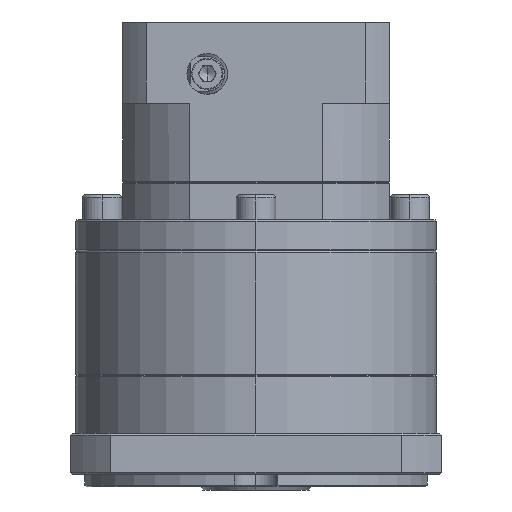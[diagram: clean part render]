
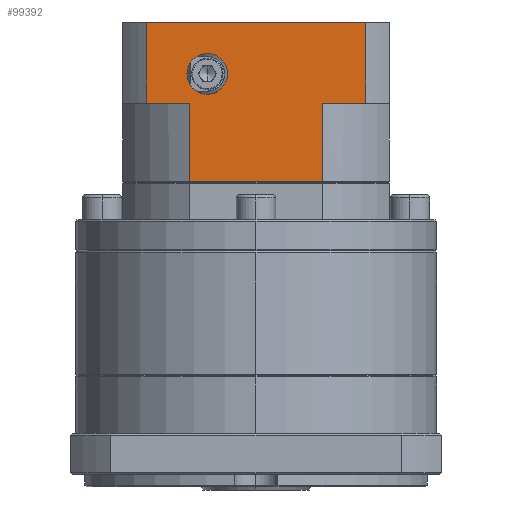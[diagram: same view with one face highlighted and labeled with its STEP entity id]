
A CAD part, left-side view. The second image highlights one B-rep face of the part: STEP entity #99392.
In plain terms, the highlighted planar face has unit normal (-1, 0, 0).
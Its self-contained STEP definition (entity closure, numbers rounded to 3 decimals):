
#6945 = VERTEX_POINT ( 'NONE', #77624 ) ;
#7213 = VERTEX_POINT ( 'NONE', #16283 ) ;
#8408 = DIRECTION ( 'NONE',  ( 0., 0., -1. ) ) ;
#8585 = LINE ( 'NONE', #104933, #49830 ) ;
#10378 = EDGE_CURVE ( 'NONE', #100656, #69462, #8585, .T. ) ;
#10654 = VECTOR ( 'NONE', #33369, 1000. ) ;
#16283 = CARTESIAN_POINT ( 'NONE',  ( -132.077, 75.877, 18.025 ) ) ;
#17887 = EDGE_CURVE ( 'NONE', #96489, #6945, #87239, .T. ) ;
#18259 = CARTESIAN_POINT ( 'NONE',  ( -132.077, 62.179, -32.575 ) ) ;
#21188 = CARTESIAN_POINT ( 'NONE',  ( -132.077, 19.753, -32.575 ) ) ;
#21524 = DIRECTION ( 'NONE',  ( 1., 0., 0. ) ) ;
#21868 = LINE ( 'NONE', #104284, #63213 ) ;
#22006 = EDGE_CURVE ( 'NONE', #7213, #57443, #95774, .T. ) ;
#23950 = VECTOR ( 'NONE', #31882, 1000. ) ;
#25133 = CARTESIAN_POINT ( 'NONE',  ( -132.077, 62.179, -32.825 ) ) ;
#25212 = CARTESIAN_POINT ( 'NONE',  ( -132.077, 56.466, 8.175 ) ) ;
#25769 = EDGE_CURVE ( 'NONE', #84661, #26204, #38910, .T. ) ;
#26204 = VERTEX_POINT ( 'NONE', #25212 ) ;
#28076 = VECTOR ( 'NONE', #42117, 1000. ) ;
#29705 = DIRECTION ( 'NONE',  ( -1., 0., 0. ) ) ;
#30391 = VECTOR ( 'NONE', #8408, 1000. ) ;
#31791 = CARTESIAN_POINT ( 'NONE',  ( -132.077, 19.753, -7.675 ) ) ;
#31882 = DIRECTION ( 'NONE',  ( 0., 1., 0. ) ) ;
#32184 = CARTESIAN_POINT ( 'NONE',  ( -132.077, 6.055, 18.025 ) ) ;
#33369 = DIRECTION ( 'NONE',  ( 0., -1., 0. ) ) ;
#34193 = CARTESIAN_POINT ( 'NONE',  ( -132.077, 6.055, -32.825 ) ) ;
#35372 = VECTOR ( 'NONE', #39858, 1000. ) ;
#35458 = DIRECTION ( 'NONE',  ( -1., 0., 0. ) ) ;
#35548 = LINE ( 'NONE', #49464, #30391 ) ;
#36075 = AXIS2_PLACEMENT_3D ( 'NONE', #84870, #35458, #93173 ) ;
#36192 = ORIENTED_EDGE ( 'NONE', *, *, #95788, .F. ) ;
#36834 = CARTESIAN_POINT ( 'NONE',  ( -132.077, 56.466, -4.825 ) ) ;
#37760 = PLANE ( 'NONE',  #50236 ) ;
#38910 = CIRCLE ( 'NONE', #36075, 6.5 ) ;
#39858 = DIRECTION ( 'NONE',  ( 0., 0., 1. ) ) ;
#42117 = DIRECTION ( 'NONE',  ( 0., 0., -1. ) ) ;
#43500 = EDGE_CURVE ( 'NONE', #26204, #84661, #52924, .T. ) ;
#48120 = EDGE_CURVE ( 'NONE', #62459, #96489, #93290, .T. ) ;
#48863 = CARTESIAN_POINT ( 'NONE',  ( -132.077, 19.753, -7.675 ) ) ;
#49021 = ORIENTED_EDGE ( 'NONE', *, *, #22006, .F. ) ;
#49411 = VECTOR ( 'NONE', #82873, 1000. ) ;
#49464 = CARTESIAN_POINT ( 'NONE',  ( -132.077, 19.753, -32.825 ) ) ;
#49830 = VECTOR ( 'NONE', #63895, 1000. ) ;
#50236 = AXIS2_PLACEMENT_3D ( 'NONE', #70965, #21524, #79239 ) ;
#52924 = CIRCLE ( 'NONE', #66034, 6.5 ) ;
#53859 = CARTESIAN_POINT ( 'NONE',  ( -132.077, 62.179, -7.675 ) ) ;
#55190 = EDGE_CURVE ( 'NONE', #6945, #7213, #57286, .T. ) ;
#57286 = LINE ( 'NONE', #64077, #35372 ) ;
#57443 = VERTEX_POINT ( 'NONE', #32184 ) ;
#57821 = VERTEX_POINT ( 'NONE', #21188 ) ;
#59266 = EDGE_LOOP ( 'NONE', ( #49021, #72197, #85087, #83307, #73104, #36192, #99325, #62734 ) ) ;
#62459 = VERTEX_POINT ( 'NONE', #18259 ) ;
#62734 = ORIENTED_EDGE ( 'NONE', *, *, #79369, .F. ) ;
#63101 = FACE_BOUND ( 'NONE', #72519, .T. ) ;
#63213 = VECTOR ( 'NONE', #63257, 1000. ) ;
#63257 = DIRECTION ( 'NONE',  ( 0., 1., 0. ) ) ;
#63895 = DIRECTION ( 'NONE',  ( 0., 1., 0. ) ) ;
#64077 = CARTESIAN_POINT ( 'NONE',  ( -132.077, 75.877, -32.825 ) ) ;
#66034 = AXIS2_PLACEMENT_3D ( 'NONE', #79092, #29705, #87401 ) ;
#69462 = VERTEX_POINT ( 'NONE', #31791 ) ;
#70965 = CARTESIAN_POINT ( 'NONE',  ( -132.077, 19.753, -32.825 ) ) ;
#72197 = ORIENTED_EDGE ( 'NONE', *, *, #55190, .F. ) ;
#72519 = EDGE_LOOP ( 'NONE', ( #89846, #97996 ) ) ;
#73104 = ORIENTED_EDGE ( 'NONE', *, *, #88861, .F. ) ;
#76361 = CARTESIAN_POINT ( 'NONE',  ( -132.077, 6.055, -7.675 ) ) ;
#77624 = CARTESIAN_POINT ( 'NONE',  ( -132.077, 75.877, -7.675 ) ) ;
#79092 = CARTESIAN_POINT ( 'NONE',  ( -132.077, 56.466, 1.675 ) ) ;
#79239 = DIRECTION ( 'NONE',  ( 0., 0., -1. ) ) ;
#79369 = EDGE_CURVE ( 'NONE', #57443, #100656, #91303, .T. ) ;
#82873 = DIRECTION ( 'NONE',  ( 0., 0., 1. ) ) ;
#83307 = ORIENTED_EDGE ( 'NONE', *, *, #48120, .F. ) ;
#84661 = VERTEX_POINT ( 'NONE', #36834 ) ;
#84870 = CARTESIAN_POINT ( 'NONE',  ( -132.077, 56.466, 1.675 ) ) ;
#85004 = FACE_OUTER_BOUND ( 'NONE', #59266, .T. ) ;
#85087 = ORIENTED_EDGE ( 'NONE', *, *, #17887, .F. ) ;
#87239 = LINE ( 'NONE', #48863, #23950 ) ;
#87401 = DIRECTION ( 'NONE',  ( 0., 0., 1. ) ) ;
#88861 = EDGE_CURVE ( 'NONE', #57821, #62459, #21868, .T. ) ;
#89846 = ORIENTED_EDGE ( 'NONE', *, *, #43500, .F. ) ;
#91101 = CARTESIAN_POINT ( 'NONE',  ( -132.077, 19.753, 18.025 ) ) ;
#91303 = LINE ( 'NONE', #34193, #28076 ) ;
#93173 = DIRECTION ( 'NONE',  ( 0., 0., 1. ) ) ;
#93290 = LINE ( 'NONE', #25133, #49411 ) ;
#95774 = LINE ( 'NONE', #91101, #10654 ) ;
#95788 = EDGE_CURVE ( 'NONE', #69462, #57821, #35548, .T. ) ;
#96489 = VERTEX_POINT ( 'NONE', #53859 ) ;
#97996 = ORIENTED_EDGE ( 'NONE', *, *, #25769, .F. ) ;
#99325 = ORIENTED_EDGE ( 'NONE', *, *, #10378, .F. ) ;
#99392 = ADVANCED_FACE ( 'NONE', ( #85004, #63101 ), #37760, .F. ) ;
#100656 = VERTEX_POINT ( 'NONE', #76361 ) ;
#104284 = CARTESIAN_POINT ( 'NONE',  ( -132.077, 40.966, -32.575 ) ) ;
#104933 = CARTESIAN_POINT ( 'NONE',  ( -132.077, 19.753, -7.675 ) ) ;
